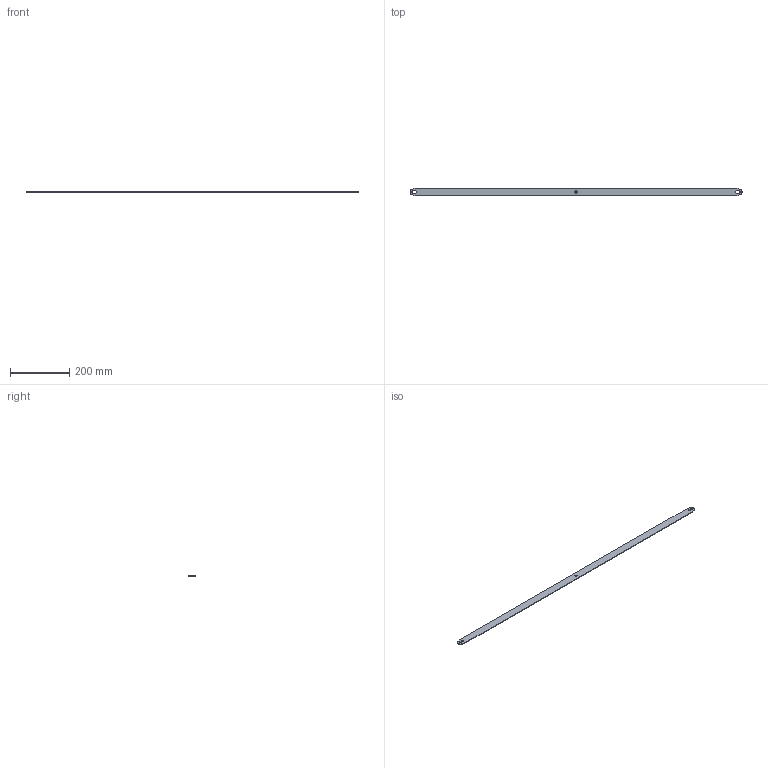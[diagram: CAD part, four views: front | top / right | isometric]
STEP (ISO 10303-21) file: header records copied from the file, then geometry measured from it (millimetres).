
FILE_DESCRIPTION(/* description */ ('Alibre Inc.'),/* implementation_level */ '2;1');
FILE_NAME(/* name */ 'export-354CC5AE-8547-4AE8-8B6F-48EB75238F67',/* time_stamp */ '2022-04-19T13:27:30-05:00',/* author */ (''),/* organization */ (''),/* preprocessor_version */ 'ST-DEVELOPER v17',/* originating_system */ 'Alibre',/* authorisation */ '');
FILE_SCHEMA (('AUTOMOTIVE_DESIGN'));
Length unit declared in the file: centimetre
Bounding box: 1124.89 x 25.4 x 2.26 mm (x, y, z)
Volume: 63493.4 mm3; surface area: 61552.6 mm2
Topology: 1 solids, 1 shells, 19 faces, 51 edges, 34 vertices
Faces by surface type: plane 12, cylinder 7
Full cylindrical faces by diameter (mm): 7.137 x1
Entity records: 609 total; most frequent: CARTESIAN_POINT 103, ORIENTED_EDGE 100, DIRECTION 90, EDGE_CURVE 50, VECTOR 36, LINE 36, VERTEX_POINT 34, AXIS2_PLACEMENT_3D 33
